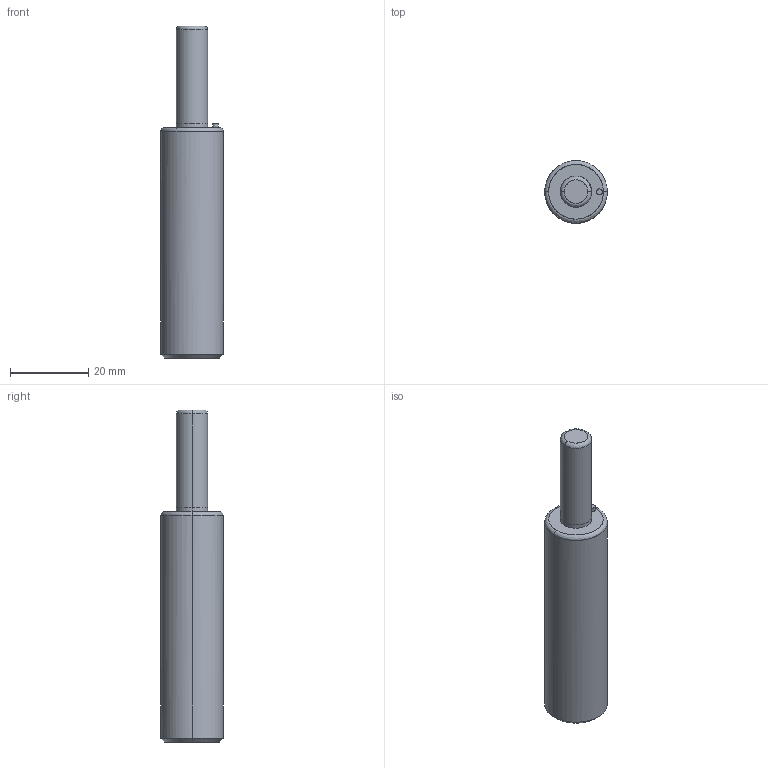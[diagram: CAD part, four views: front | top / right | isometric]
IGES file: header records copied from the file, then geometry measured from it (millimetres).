
Global section: file name: E:\UnigraphicsGraphicData\MISUMI_PRESS-PARTS\IGES\3d_mgsc16-25_04567_r00.igs; native system: NX V5.0; preprocessor: UGS NX IGES V5.0; author: MISUMI; date: 20110105.161434; units: millimetre
Bounding box: 16 x 15.99 x 85 mm (x, y, z)
Surface area: 4122.9 mm2 (no closed solid volume)
Topology: 0 solids, 0 shells, 24 faces, 136 edges, 134 vertices
Faces by surface type: bspline 24
